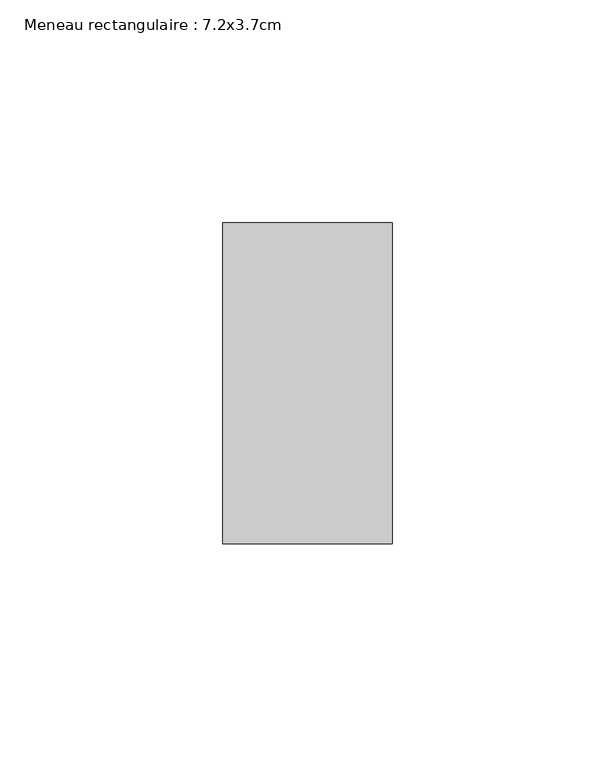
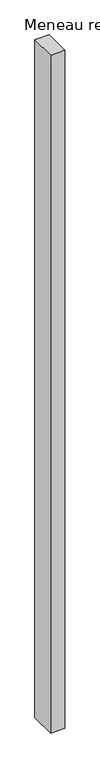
"""IFC4 building model written with IfcOpenShell, lengths in millimetres: member geometry, Meneau rectangulaire : 7.2x3.7cm."""

from ifc_helpers import new_model, si_unit, frame, origin, place, context, project, spatial, polyline, outline, extrude, source, transform, mapped, element, save


def meneau_rectangulaire_7_2x3_7cm_61a26c9d(model_context):
    return source(origin(), model_context, "Body", "SweptSolid", [
        extrude(outline(polyline([(0.0, 36.0), (0.0, -36.0), (-38.0, -36.0), (-38.0, 36.0), (0.0, 36.0)])), frame((0.0, 0.0, -1904.0), z_axis=(0.0, 0.0, 1.0), x_axis=(1.0, 0.0, 0.0)), (0.0, 0.0, 1.0), 1904.0),
    ])


if __name__ == "__main__":
    model = new_model("IFC4")
    model_context = context("Model", 3, world=origin())
    ifc_project = project(units=[si_unit("LENGTHUNIT", "METRE", prefix="MILLI")], contexts=[model_context])
    site = spatial("IfcSite", under=ifc_project)
    building = spatial("IfcBuilding", under=site)
    placement = place(None, origin())
    meneau_rectangulaire_7_2x3_7cm_shape = meneau_rectangulaire_7_2x3_7cm_61a26c9d(model_context)
    element("IfcMember", 1, ObjectType="Meneau rectangulaire : 7.2x3.7cm", at=placement, inside=building, context=model_context, shape_type="MappedRepresentation", body=[
        mapped(meneau_rectangulaire_7_2x3_7cm_shape, transform((0.0, 0.0, 0.0), x_axis=(1.0, 0.0, 0.0), y_axis=(0.0, 1.0, 0.0), z_axis=(0.0, 0.0, 1.0))),
    ])
    save(model, "model.ifc")
